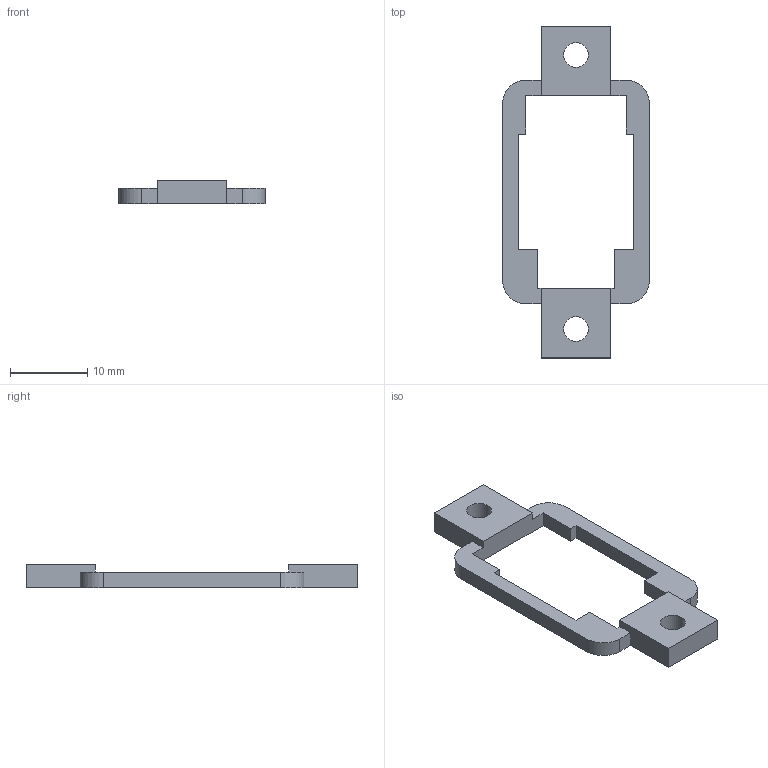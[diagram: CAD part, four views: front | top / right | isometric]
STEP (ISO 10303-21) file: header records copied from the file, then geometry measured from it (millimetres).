
FILE_DESCRIPTION(/* description */ ('STEP AP242','CAx-IF Rec.Pracs.---Representation and Presentation of Product Manufacturing Information (PMI)---4.0---2014-10-13','CAx-IF Rec.Pracs.---3D Tessellated Geometry---0.4---2014-09-14','2;1'),/* implementation_level */ '2;1');
FILE_NAME(/* name */ '67516f8ffb67772fa30a8cfb',/* time_stamp */ '2024-12-05T09:17:04Z',/* author */ (''),/* organization */ (''),/* preprocessor_version */ 'ST-DEVELOPER v20',/* originating_system */ 'ONSHAPE BY PTC INC, 1.190',/* authorisation */ ' ');
FILE_SCHEMA (('AP242_MANAGED_MODEL_BASED_3D_ENGINEERING_MIM_LF { 1 0 10303 442 1 1 4 }'));
Length unit declared in the file: metre
Products named in the file (1): I3D03 - ESP01s Spacer
Bounding box: 19 x 43 x 3 mm (x, y, z)
Volume: 772.3 mm3; surface area: 1156.4 mm2
Topology: 1 solids, 1 shells, 35 faces, 102 edges, 68 vertices
Faces by surface type: plane 29, cylinder 6
Full cylindrical faces by diameter (mm): 3.2 x2
Entity records: 1172 total; most frequent: CARTESIAN_POINT 204, ORIENTED_EDGE 200, DIRECTION 184, EDGE_CURVE 100, LINE 88, VECTOR 88, VERTEX_POINT 68, AXIS2_PLACEMENT_3D 48
